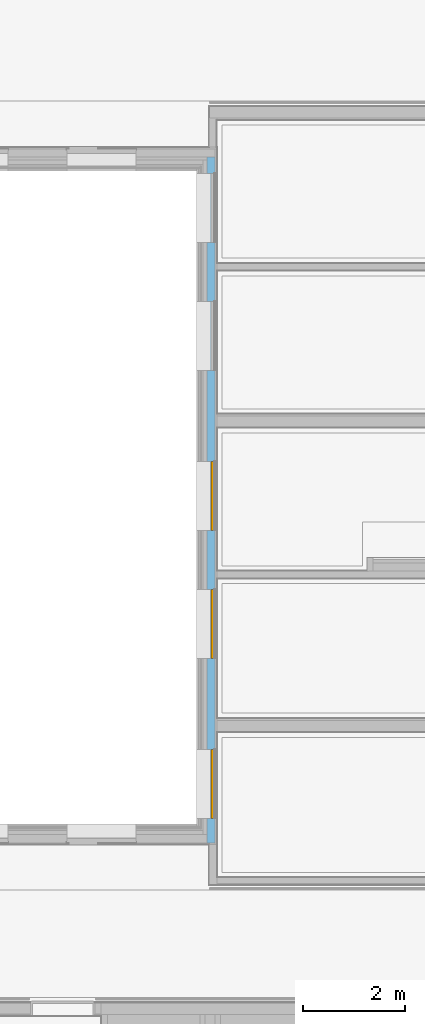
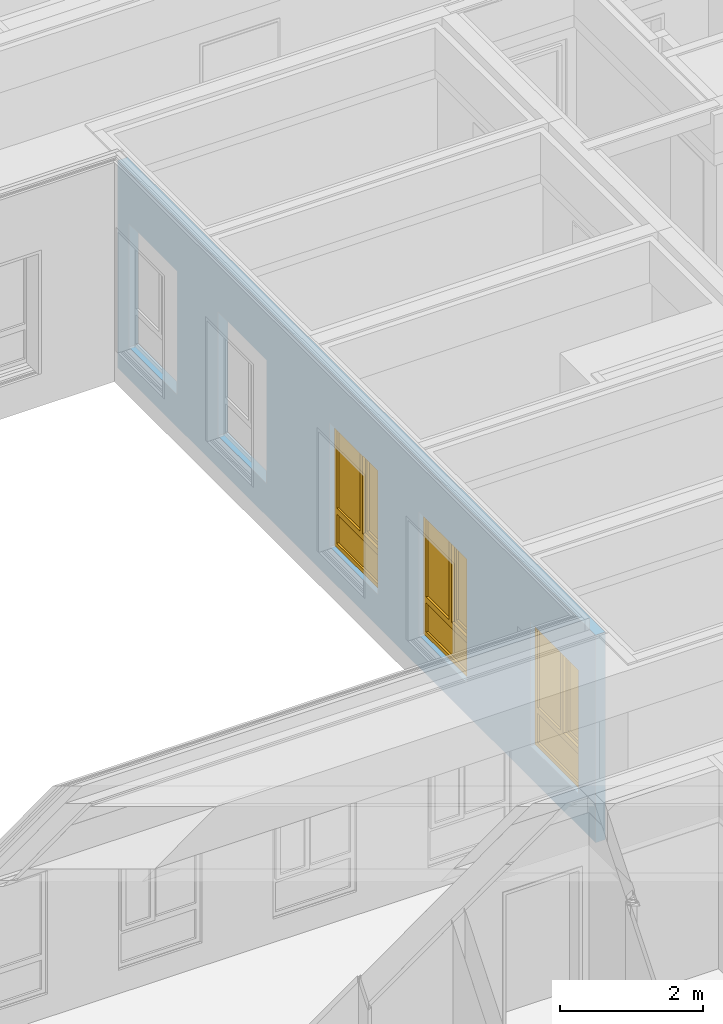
# One storey, part 126 of 222: 3 windows, 5 openings, plus 1 element that does not belong to this part.
"""IFC4 building model written with IfcOpenShell, lengths in metres."""

from ifc_helpers import new_model, entity, si_unit, converted_unit, derived_unit, frame, frame_2d, origin, origin_with_axes, place, context, subcontext, project, spatial, polyline, rectangle, outline, extrude, closed_shell, open_shell, surface_model, source, transform, mapped, material, element, fill, save


model = new_model("IFC4")

# Units and contexts
model_context = context("Model", 3, precision=1e-05, world=origin())
body_context = subcontext(model_context, "Body", "Model", "MODEL_VIEW")
ifc_project = project(units=[si_unit("LENGTHUNIT", "METRE"), si_unit("AREAUNIT", "SQUARE_METRE"), si_unit("VOLUMEUNIT", "CUBIC_METRE"), si_unit("MASSUNIT", "GRAM", prefix="KILO"), converted_unit("PLANEANGLEUNIT", "DEGREE", entity("IfcPlaneAngleMeasure", 0.0174532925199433), si_unit("PLANEANGLEUNIT", "RADIAN"), dimensions=[0, 0, 0, 0, 0, 0, 0]), derived_unit("THERMALTRANSMITTANCEUNIT", [(si_unit("POWERUNIT", "WATT"), 1), (si_unit("THERMODYNAMICTEMPERATUREUNIT", "KELVIN"), -1), (si_unit("LENGTHUNIT", "METRE"), -2)]), derived_unit("VOLUMETRICFLOWRATEUNIT", [(si_unit("LENGTHUNIT", "METRE"), 3), (converted_unit("TIMEUNIT", "hour", entity("IfcTimeMeasure", 3600.0), si_unit("TIMEUNIT", "SECOND"), dimensions=[0, 0, 1, 0, 0, 0, 0]), -1), (si_unit("LENGTHUNIT", "METRE"), -1)])], contexts=[model_context])

# Site, building, storey
site_placement = place(None, origin())
site = spatial("IfcSite", under=ifc_project, at=site_placement, Name="Psychiatrie Neubau Wunstorf", CompositionType="ELEMENT")
building_placement = place(site_placement, origin())
building = spatial("IfcBuilding", under=site, at=building_placement, Name="Neubau H2 Stationsgebäude", CompositionType="ELEMENT")
storey_placement = place(building_placement, frame((0.0, 0.0, 3.6)))
storey = spatial("IfcBuildingStorey", under=building, at=storey_placement, Name="H2 Ebene +1", CompositionType="ELEMENT", Elevation=3.6)

# Wall, openings, windows
ifc_material = material(Name="WA-DL")
wall_placement = place(storey_placement, frame((90.325, 8.45000000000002, 0.0), z_axis=(0.0, 0.0, 1.0), x_axis=(0.0, 1.0, 0.0)))
wall = element("IfcWall", 1, at=wall_placement, inside=storey, material=ifc_material, context=body_context, shape_type="SweptSolid", body=[
    extrude(rectangle(XDim=13.390001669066, YDim=0.16, at=frame_2d((6.69500083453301, 0.08), x_axis=(1.0, 0.0))), origin_with_axes(), (0.0, 0.0, 1.0), 3.55),
])
opening_1_placement = place(wall_placement, frame((1.82573687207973, 0.16, 0.55), z_axis=(0.0, -1.0, 0.0), x_axis=(0.0, 0.0, 1.0)))
opening_1 = element("IfcOpeningElement", 2, at=opening_1_placement, cuts=wall, Name="Fensteröffnung", ObjectType="Opening", context=body_context, shape_type="SweptSolid", body=[
    extrude(outline(polyline([(2.115, 1.35), (2.115, 0.0), (0.0, 0.0), (0.0, 1.35), (2.115, 1.35)])), origin_with_axes(), (0.0, 0.0, 1.0), 0.16),
])
opening_2_placement = place(wall_placement, frame((4.95001199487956, 0.159999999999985, 0.55), z_axis=(0.0, -1.0, 0.0), x_axis=(0.0, 0.0, 1.0)))
opening_2 = element("IfcOpeningElement", 3, at=opening_2_placement, cuts=wall, Name="Fensteröffnung", ObjectType="Opening", context=body_context, shape_type="SweptSolid", body=[
    extrude(outline(polyline([(2.115, 1.35), (2.115, 0.0), (0.0, 0.0), (0.0, 1.35), (2.115, 1.35)])), origin_with_axes(), (0.0, 0.0, 1.0), 0.16),
])
opening_3_placement = place(wall_placement, frame((7.45001199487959, 0.16, 0.55), z_axis=(0.0, -1.0, 0.0), x_axis=(0.0, 0.0, 1.0)))
opening_3 = element("IfcOpeningElement", 4, at=opening_3_placement, cuts=wall, Name="Fensteröffnung", ObjectType="Opening", context=body_context, shape_type="SweptSolid", body=[
    extrude(outline(polyline([(2.115, 1.35), (2.115, 0.0), (0.0, 0.0), (0.0, 1.35), (2.115, 1.35)])), origin_with_axes(), (0.0, 0.0, 1.0), 0.16),
])
opening_4_placement = place(wall_placement, frame((10.5746294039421, 0.160000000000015, 0.55), z_axis=(0.0, -1.0, 0.0), x_axis=(0.0, 0.0, 1.0)))
element("IfcOpeningElement", 5, at=opening_4_placement, cuts=wall, Name="Fensteröffnung", ObjectType="Opening", context=body_context, shape_type="SweptSolid", body=[
    extrude(outline(polyline([(2.115, 1.35), (2.115, 0.0), (0.0, 0.0), (0.0, 1.35), (2.115, 1.35)])), origin_with_axes(), (0.0, 0.0, 1.0), 0.16),
])
opening_5_placement = place(wall_placement, frame((13.0745718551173, 0.159999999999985, 0.55), z_axis=(0.0, -1.0, 0.0), x_axis=(0.0, 0.0, 1.0)))
element("IfcOpeningElement", 6, at=opening_5_placement, cuts=wall, Name="Fensteröffnung", ObjectType="Opening", context=body_context, shape_type="SweptSolid", body=[
    extrude(outline(polyline([(2.115, 1.35), (2.115, 0.0), (0.0, 0.0), (0.0, 1.35), (2.115, 1.35)])), origin_with_axes(), (0.0, 0.0, 1.0), 0.16),
])
shared_shape_1 = source(origin_with_axes(), body_context, "Body", "SurfaceModel", [
    surface_model("IfcShellBasedSurfaceModel", [(0.0, 0.0, 2.115), (0.0699999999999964, 0.0, 2.115), (0.0699999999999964, 0.0, 0.0), (0.0, 0.0, 0.0), (0.0, 0.0700000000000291, 0.0), (0.0699999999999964, 0.0700000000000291, 0.0), (0.0699999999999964, 0.0700000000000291, 2.115), (0.0, 0.0700000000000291, 2.115)], [closed_shell([[[0, 1, 2, 3]], [[4, 5, 6, 7]], [[3, 4, 7, 0]], [[2, 5, 4, 3]], [[1, 6, 5, 2]], [[0, 7, 6, 1]]], orient=[[False], [False], [False], [False], [False], [False]])]),
    surface_model("IfcShellBasedSurfaceModel", [(1.28, 0.0, 2.115), (1.35, 0.0, 2.115), (1.35, 0.0, 0.0), (1.28, 0.0, 0.0), (1.28, 0.0700000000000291, 0.0), (1.35, 0.0700000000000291, 0.0), (1.35, 0.0700000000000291, 2.115), (1.28, 0.0700000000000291, 2.115)], [closed_shell([[[0, 1, 2, 3]], [[4, 5, 6, 7]], [[3, 4, 7, 0]], [[2, 5, 4, 3]], [[1, 6, 5, 2]], [[0, 7, 6, 1]]], orient=[[False], [False], [False], [False], [False], [False]])]),
    surface_model("IfcShellBasedSurfaceModel", [(0.0699999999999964, 0.0, 0.07), (1.28, 0.0, 0.07), (1.28, 0.0, 0.0), (0.0699999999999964, 0.0, 0.0), (0.0699999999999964, 0.0700000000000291, 0.0), (1.28, 0.0700000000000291, 0.0), (1.28, 0.0700000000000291, 0.07), (0.0699999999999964, 0.0700000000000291, 0.07)], [closed_shell([[[0, 1, 2, 3]], [[4, 5, 6, 7]], [[3, 4, 7, 0]], [[2, 5, 4, 3]], [[1, 6, 5, 2]], [[0, 7, 6, 1]]], orient=[[False], [False], [False], [False], [False], [False]])]),
    surface_model("IfcShellBasedSurfaceModel", [(0.0699999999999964, 0.0, 2.115), (1.28, 0.0, 2.115), (1.28, 0.0, 2.045), (0.0699999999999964, 0.0, 2.045), (0.0699999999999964, 0.0700000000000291, 2.045), (1.28, 0.0700000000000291, 2.045), (1.28, 0.0700000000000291, 2.115), (0.0699999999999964, 0.0700000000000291, 2.115)], [closed_shell([[[0, 1, 2, 3]], [[4, 5, 6, 7]], [[3, 4, 7, 0]], [[2, 5, 4, 3]], [[1, 6, 5, 2]], [[0, 7, 6, 1]]], orient=[[False], [False], [False], [False], [False], [False]])]),
    surface_model("IfcShellBasedSurfaceModel", [(0.0699999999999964, 0.0, 0.67), (1.28, 0.0, 0.67), (1.28, 0.0, 0.57), (0.0699999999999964, 0.0, 0.57), (0.0699999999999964, 0.0700000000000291, 0.57), (1.28, 0.0700000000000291, 0.57), (1.28, 0.0700000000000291, 0.67), (0.0699999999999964, 0.0700000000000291, 0.67)], [closed_shell([[[0, 1, 2, 3]], [[4, 5, 6, 7]], [[3, 4, 7, 0]], [[2, 5, 4, 3]], [[1, 6, 5, 2]], [[0, 7, 6, 1]]], orient=[[False], [False], [False], [False], [False], [False]])]),
    surface_model("IfcShellBasedSurfaceModel", [(0.0699999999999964, 0.0350000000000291, 0.07), (0.0699999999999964, 0.0350000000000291, 0.57), (1.28, 0.0350000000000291, 0.57), (1.28, 0.0350000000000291, 0.07)], [open_shell([[[0, 1, 2, 3]]], orient=[[False]])]),
    surface_model("IfcShellBasedSurfaceModel", [(0.565699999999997, 0.0, 2.045), (0.635699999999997, 0.0, 2.045), (0.635699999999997, 0.0, 0.67), (0.565699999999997, 0.0, 0.67), (0.565699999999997, 0.0700000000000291, 0.67), (0.635699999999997, 0.0700000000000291, 0.67), (0.635699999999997, 0.0700000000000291, 2.045), (0.565699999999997, 0.0700000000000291, 2.045)], [closed_shell([[[0, 1, 2, 3]], [[4, 5, 6, 7]], [[3, 4, 7, 0]], [[2, 5, 4, 3]], [[1, 6, 5, 2]], [[0, 7, 6, 1]]], orient=[[False], [False], [False], [False], [False], [False]])]),
    surface_model("IfcShellBasedSurfaceModel", [(0.0499999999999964, -0.0499999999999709, 2.065), (0.119999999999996, -0.0499999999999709, 2.065), (0.119999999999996, -0.0499999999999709, 0.65), (0.0499999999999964, -0.0499999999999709, 0.65), (0.0499999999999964, 0.0200000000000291, 0.65), (0.119999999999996, 0.0200000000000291, 0.65), (0.119999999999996, 0.0200000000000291, 2.065), (0.0499999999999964, 0.0200000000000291, 2.065)], [closed_shell([[[0, 1, 2, 3]], [[4, 5, 6, 7]], [[3, 4, 7, 0]], [[2, 5, 4, 3]], [[1, 6, 5, 2]], [[0, 7, 6, 1]]], orient=[[False], [False], [False], [False], [False], [False]])]),
    surface_model("IfcShellBasedSurfaceModel", [(0.515699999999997, -0.0499999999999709, 2.065), (0.585699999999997, -0.0499999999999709, 2.065), (0.585699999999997, -0.0499999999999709, 0.65), (0.515699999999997, -0.0499999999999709, 0.65), (0.515699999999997, 0.0200000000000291, 0.65), (0.585699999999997, 0.0200000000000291, 0.65), (0.585699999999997, 0.0200000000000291, 2.065), (0.515699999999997, 0.0200000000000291, 2.065)], [closed_shell([[[0, 1, 2, 3]], [[4, 5, 6, 7]], [[3, 4, 7, 0]], [[2, 5, 4, 3]], [[1, 6, 5, 2]], [[0, 7, 6, 1]]], orient=[[False], [False], [False], [False], [False], [False]])]),
    surface_model("IfcShellBasedSurfaceModel", [(0.119999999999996, -0.0499999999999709, 0.72), (0.515699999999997, -0.0499999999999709, 0.72), (0.515699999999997, -0.0499999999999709, 0.65), (0.119999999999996, -0.0499999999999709, 0.65), (0.119999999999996, 0.0200000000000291, 0.65), (0.515699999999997, 0.0200000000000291, 0.65), (0.515699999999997, 0.0200000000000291, 0.72), (0.119999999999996, 0.0200000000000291, 0.72)], [closed_shell([[[0, 1, 2, 3]], [[4, 5, 6, 7]], [[3, 4, 7, 0]], [[2, 5, 4, 3]], [[1, 6, 5, 2]], [[0, 7, 6, 1]]], orient=[[False], [False], [False], [False], [False], [False]])]),
    surface_model("IfcShellBasedSurfaceModel", [(0.119999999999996, -0.0499999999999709, 2.065), (0.515699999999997, -0.0499999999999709, 2.065), (0.515699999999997, -0.0499999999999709, 1.995), (0.119999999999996, -0.0499999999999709, 1.995), (0.119999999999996, 0.0200000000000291, 1.995), (0.515699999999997, 0.0200000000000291, 1.995), (0.515699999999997, 0.0200000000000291, 2.065), (0.119999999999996, 0.0200000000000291, 2.065)], [closed_shell([[[0, 1, 2, 3]], [[4, 5, 6, 7]], [[3, 4, 7, 0]], [[2, 5, 4, 3]], [[1, 6, 5, 2]], [[0, 7, 6, 1]]], orient=[[False], [False], [False], [False], [False], [False]])]),
    surface_model("IfcShellBasedSurfaceModel", [(0.635699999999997, 0.0350000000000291, 0.67), (0.635699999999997, 0.0350000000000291, 2.045), (1.28, 0.0350000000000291, 2.045), (1.28, 0.0350000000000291, 0.67)], [open_shell([[[0, 1, 2, 3]]], orient=[[False]])]),
    surface_model("IfcShellBasedSurfaceModel", [(0.119999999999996, -0.0149999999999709, 0.72), (0.119999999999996, -0.0149999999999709, 1.995), (0.515699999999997, -0.0149999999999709, 1.995), (0.515699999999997, -0.0149999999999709, 0.72)], [open_shell([[[0, 1, 2, 3]]], orient=[[False]])]),
])
window_1_placement = place(opening_1_placement, frame((0.0, 1.35, 0.146), z_axis=(1.0, 0.0, 0.0), x_axis=(0.0, -1.0, 0.0)))
window_1 = element("IfcWindow", 7, at=window_1_placement, inside=storey, Name="Fenster", OverallHeight=2.115, OverallWidth=1.35, PartitioningType="USERDEFINED", PredefinedType="WINDOW", context=body_context, shape_type="MappedRepresentation", body=[
    mapped(shared_shape_1, transform((0.0, 0.0, 0.0), x_axis=(1.0, 0.0, 0.0), y_axis=(0.0, 1.0, 0.0), z_axis=(0.0, 0.0, 1.0), scale=1.0)),
])
fill(opening_1, window_1)
shared_shape_2 = source(origin_with_axes(), body_context, "Body", "SurfaceModel", [
    surface_model("IfcShellBasedSurfaceModel", [(0.0, 0.0, 2.115), (0.0699999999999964, 0.0, 2.115), (0.0699999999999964, 0.0, 0.0), (0.0, 0.0, 0.0), (0.0, 0.0700000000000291, 0.0), (0.0699999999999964, 0.0700000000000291, 0.0), (0.0699999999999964, 0.0700000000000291, 2.115), (0.0, 0.0700000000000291, 2.115)], [closed_shell([[[0, 1, 2, 3]], [[4, 5, 6, 7]], [[3, 4, 7, 0]], [[2, 5, 4, 3]], [[1, 6, 5, 2]], [[0, 7, 6, 1]]], orient=[[False], [False], [False], [False], [False], [False]])]),
    surface_model("IfcShellBasedSurfaceModel", [(1.28, 0.0, 2.115), (1.35, 0.0, 2.115), (1.35, 0.0, 0.0), (1.28, 0.0, 0.0), (1.28, 0.0700000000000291, 0.0), (1.35, 0.0700000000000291, 0.0), (1.35, 0.0700000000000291, 2.115), (1.28, 0.0700000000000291, 2.115)], [closed_shell([[[0, 1, 2, 3]], [[4, 5, 6, 7]], [[3, 4, 7, 0]], [[2, 5, 4, 3]], [[1, 6, 5, 2]], [[0, 7, 6, 1]]], orient=[[False], [False], [False], [False], [False], [False]])]),
    surface_model("IfcShellBasedSurfaceModel", [(0.0699999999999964, 0.0, 0.07), (1.28, 0.0, 0.07), (1.28, 0.0, 0.0), (0.0699999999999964, 0.0, 0.0), (0.0699999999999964, 0.0700000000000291, 0.0), (1.28, 0.0700000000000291, 0.0), (1.28, 0.0700000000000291, 0.07), (0.0699999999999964, 0.0700000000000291, 0.07)], [closed_shell([[[0, 1, 2, 3]], [[4, 5, 6, 7]], [[3, 4, 7, 0]], [[2, 5, 4, 3]], [[1, 6, 5, 2]], [[0, 7, 6, 1]]], orient=[[False], [False], [False], [False], [False], [False]])]),
    surface_model("IfcShellBasedSurfaceModel", [(0.0699999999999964, 0.0, 2.115), (1.28, 0.0, 2.115), (1.28, 0.0, 2.045), (0.0699999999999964, 0.0, 2.045), (0.0699999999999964, 0.0700000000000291, 2.045), (1.28, 0.0700000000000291, 2.045), (1.28, 0.0700000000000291, 2.115), (0.0699999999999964, 0.0700000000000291, 2.115)], [closed_shell([[[0, 1, 2, 3]], [[4, 5, 6, 7]], [[3, 4, 7, 0]], [[2, 5, 4, 3]], [[1, 6, 5, 2]], [[0, 7, 6, 1]]], orient=[[False], [False], [False], [False], [False], [False]])]),
    surface_model("IfcShellBasedSurfaceModel", [(0.0699999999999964, 0.0, 0.67), (1.28, 0.0, 0.67), (1.28, 0.0, 0.57), (0.0699999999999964, 0.0, 0.57), (0.0699999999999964, 0.0700000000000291, 0.57), (1.28, 0.0700000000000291, 0.57), (1.28, 0.0700000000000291, 0.67), (0.0699999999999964, 0.0700000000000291, 0.67)], [closed_shell([[[0, 1, 2, 3]], [[4, 5, 6, 7]], [[3, 4, 7, 0]], [[2, 5, 4, 3]], [[1, 6, 5, 2]], [[0, 7, 6, 1]]], orient=[[False], [False], [False], [False], [False], [False]])]),
    surface_model("IfcShellBasedSurfaceModel", [(0.0699999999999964, 0.0350000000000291, 0.07), (0.0699999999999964, 0.0350000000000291, 0.57), (1.28, 0.0350000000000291, 0.57), (1.28, 0.0350000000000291, 0.07)], [open_shell([[[0, 1, 2, 3]]], orient=[[False]])]),
    surface_model("IfcShellBasedSurfaceModel", [(0.565699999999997, 0.0, 2.045), (0.635699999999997, 0.0, 2.045), (0.635699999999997, 0.0, 0.67), (0.565699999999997, 0.0, 0.67), (0.565699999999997, 0.0700000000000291, 0.67), (0.635699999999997, 0.0700000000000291, 0.67), (0.635699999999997, 0.0700000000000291, 2.045), (0.565699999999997, 0.0700000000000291, 2.045)], [closed_shell([[[0, 1, 2, 3]], [[4, 5, 6, 7]], [[3, 4, 7, 0]], [[2, 5, 4, 3]], [[1, 6, 5, 2]], [[0, 7, 6, 1]]], orient=[[False], [False], [False], [False], [False], [False]])]),
    surface_model("IfcShellBasedSurfaceModel", [(0.0499999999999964, -0.0499999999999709, 2.065), (0.119999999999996, -0.0499999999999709, 2.065), (0.119999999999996, -0.0499999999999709, 0.65), (0.0499999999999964, -0.0499999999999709, 0.65), (0.0499999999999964, 0.0200000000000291, 0.65), (0.119999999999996, 0.0200000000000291, 0.65), (0.119999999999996, 0.0200000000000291, 2.065), (0.0499999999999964, 0.0200000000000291, 2.065)], [closed_shell([[[0, 1, 2, 3]], [[4, 5, 6, 7]], [[3, 4, 7, 0]], [[2, 5, 4, 3]], [[1, 6, 5, 2]], [[0, 7, 6, 1]]], orient=[[False], [False], [False], [False], [False], [False]])]),
    surface_model("IfcShellBasedSurfaceModel", [(0.515699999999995, -0.0499999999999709, 2.065), (0.585699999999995, -0.0499999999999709, 2.065), (0.585699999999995, -0.0499999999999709, 0.65), (0.515699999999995, -0.0499999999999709, 0.65), (0.515699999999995, 0.0200000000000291, 0.65), (0.585699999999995, 0.0200000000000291, 0.65), (0.585699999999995, 0.0200000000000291, 2.065), (0.515699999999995, 0.0200000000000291, 2.065)], [closed_shell([[[0, 1, 2, 3]], [[4, 5, 6, 7]], [[3, 4, 7, 0]], [[2, 5, 4, 3]], [[1, 6, 5, 2]], [[0, 7, 6, 1]]], orient=[[False], [False], [False], [False], [False], [False]])]),
    surface_model("IfcShellBasedSurfaceModel", [(0.119999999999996, -0.0499999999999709, 0.72), (0.515699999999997, -0.0499999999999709, 0.72), (0.515699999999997, -0.0499999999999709, 0.65), (0.119999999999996, -0.0499999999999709, 0.65), (0.119999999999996, 0.0200000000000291, 0.65), (0.515699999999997, 0.0200000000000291, 0.65), (0.515699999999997, 0.0200000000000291, 0.72), (0.119999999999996, 0.0200000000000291, 0.72)], [closed_shell([[[0, 1, 2, 3]], [[4, 5, 6, 7]], [[3, 4, 7, 0]], [[2, 5, 4, 3]], [[1, 6, 5, 2]], [[0, 7, 6, 1]]], orient=[[False], [False], [False], [False], [False], [False]])]),
    surface_model("IfcShellBasedSurfaceModel", [(0.119999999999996, -0.0499999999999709, 2.065), (0.515699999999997, -0.0499999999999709, 2.065), (0.515699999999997, -0.0499999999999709, 1.995), (0.119999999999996, -0.0499999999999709, 1.995), (0.119999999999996, 0.0200000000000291, 1.995), (0.515699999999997, 0.0200000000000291, 1.995), (0.515699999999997, 0.0200000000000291, 2.065), (0.119999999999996, 0.0200000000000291, 2.065)], [closed_shell([[[0, 1, 2, 3]], [[4, 5, 6, 7]], [[3, 4, 7, 0]], [[2, 5, 4, 3]], [[1, 6, 5, 2]], [[0, 7, 6, 1]]], orient=[[False], [False], [False], [False], [False], [False]])]),
    surface_model("IfcShellBasedSurfaceModel", [(0.635699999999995, 0.0350000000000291, 0.67), (0.635699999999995, 0.0350000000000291, 2.045), (1.28, 0.0350000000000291, 2.045), (1.28, 0.0350000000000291, 0.67)], [open_shell([[[0, 1, 2, 3]]], orient=[[False]])]),
    surface_model("IfcShellBasedSurfaceModel", [(0.119999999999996, -0.0149999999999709, 0.72), (0.119999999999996, -0.0149999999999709, 1.995), (0.515699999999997, -0.0149999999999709, 1.995), (0.515699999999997, -0.0149999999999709, 0.72)], [open_shell([[[0, 1, 2, 3]]], orient=[[False]])]),
])
window_2_placement = place(opening_2_placement, frame((0.0, 1.35, 0.146), z_axis=(1.0, 0.0, 0.0), x_axis=(0.0, -1.0, 0.0)))
window_2 = element("IfcWindow", 8, at=window_2_placement, inside=storey, Name="Fenster", OverallHeight=2.115, OverallWidth=1.35, PartitioningType="USERDEFINED", PredefinedType="WINDOW", context=body_context, shape_type="MappedRepresentation", body=[
    mapped(shared_shape_2, transform((0.0, 0.0, 0.0), x_axis=(1.0, 0.0, 0.0), y_axis=(0.0, 1.0, 0.0), z_axis=(0.0, 0.0, 1.0), scale=1.0)),
])
fill(opening_2, window_2)
shared_shape_3 = source(origin_with_axes(), body_context, "Body", "SurfaceModel", [
    surface_model("IfcShellBasedSurfaceModel", [(0.0, 0.0, 2.115), (0.0699999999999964, 0.0, 2.115), (0.0699999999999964, 0.0, 0.0), (0.0, 0.0, 0.0), (0.0, 0.0700000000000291, 0.0), (0.0699999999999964, 0.0700000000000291, 0.0), (0.0699999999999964, 0.0700000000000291, 2.115), (0.0, 0.0700000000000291, 2.115)], [closed_shell([[[0, 1, 2, 3]], [[4, 5, 6, 7]], [[3, 4, 7, 0]], [[2, 5, 4, 3]], [[1, 6, 5, 2]], [[0, 7, 6, 1]]], orient=[[False], [False], [False], [False], [False], [False]])]),
    surface_model("IfcShellBasedSurfaceModel", [(1.28, 0.0, 2.115), (1.35, 0.0, 2.115), (1.35, 0.0, 0.0), (1.28, 0.0, 0.0), (1.28, 0.0700000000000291, 0.0), (1.35, 0.0700000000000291, 0.0), (1.35, 0.0700000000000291, 2.115), (1.28, 0.0700000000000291, 2.115)], [closed_shell([[[0, 1, 2, 3]], [[4, 5, 6, 7]], [[3, 4, 7, 0]], [[2, 5, 4, 3]], [[1, 6, 5, 2]], [[0, 7, 6, 1]]], orient=[[False], [False], [False], [False], [False], [False]])]),
    surface_model("IfcShellBasedSurfaceModel", [(0.0699999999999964, 0.0, 0.07), (1.28, 0.0, 0.07), (1.28, 0.0, 0.0), (0.0699999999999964, 0.0, 0.0), (0.0699999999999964, 0.0700000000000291, 0.0), (1.28, 0.0700000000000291, 0.0), (1.28, 0.0700000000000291, 0.07), (0.0699999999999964, 0.0700000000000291, 0.07)], [closed_shell([[[0, 1, 2, 3]], [[4, 5, 6, 7]], [[3, 4, 7, 0]], [[2, 5, 4, 3]], [[1, 6, 5, 2]], [[0, 7, 6, 1]]], orient=[[False], [False], [False], [False], [False], [False]])]),
    surface_model("IfcShellBasedSurfaceModel", [(0.0699999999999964, 0.0, 2.115), (1.28, 0.0, 2.115), (1.28, 0.0, 2.045), (0.0699999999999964, 0.0, 2.045), (0.0699999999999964, 0.0700000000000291, 2.045), (1.28, 0.0700000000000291, 2.045), (1.28, 0.0700000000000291, 2.115), (0.0699999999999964, 0.0700000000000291, 2.115)], [closed_shell([[[0, 1, 2, 3]], [[4, 5, 6, 7]], [[3, 4, 7, 0]], [[2, 5, 4, 3]], [[1, 6, 5, 2]], [[0, 7, 6, 1]]], orient=[[False], [False], [False], [False], [False], [False]])]),
    surface_model("IfcShellBasedSurfaceModel", [(0.0699999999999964, 0.0, 0.67), (1.28, 0.0, 0.67), (1.28, 0.0, 0.57), (0.0699999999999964, 0.0, 0.57), (0.0699999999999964, 0.0700000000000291, 0.57), (1.28, 0.0700000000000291, 0.57), (1.28, 0.0700000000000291, 0.67), (0.0699999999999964, 0.0700000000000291, 0.67)], [closed_shell([[[0, 1, 2, 3]], [[4, 5, 6, 7]], [[3, 4, 7, 0]], [[2, 5, 4, 3]], [[1, 6, 5, 2]], [[0, 7, 6, 1]]], orient=[[False], [False], [False], [False], [False], [False]])]),
    surface_model("IfcShellBasedSurfaceModel", [(0.0699999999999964, 0.0350000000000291, 0.07), (0.0699999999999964, 0.0350000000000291, 0.57), (1.28, 0.0350000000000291, 0.57), (1.28, 0.0350000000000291, 0.07)], [open_shell([[[0, 1, 2, 3]]], orient=[[False]])]),
    surface_model("IfcShellBasedSurfaceModel", [(0.565699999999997, 0.0, 2.045), (0.635699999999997, 0.0, 2.045), (0.635699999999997, 0.0, 0.67), (0.565699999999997, 0.0, 0.67), (0.565699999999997, 0.0700000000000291, 0.67), (0.635699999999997, 0.0700000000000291, 0.67), (0.635699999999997, 0.0700000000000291, 2.045), (0.565699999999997, 0.0700000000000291, 2.045)], [closed_shell([[[0, 1, 2, 3]], [[4, 5, 6, 7]], [[3, 4, 7, 0]], [[2, 5, 4, 3]], [[1, 6, 5, 2]], [[0, 7, 6, 1]]], orient=[[False], [False], [False], [False], [False], [False]])]),
    surface_model("IfcShellBasedSurfaceModel", [(0.0499999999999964, -0.0499999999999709, 2.065), (0.119999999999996, -0.0499999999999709, 2.065), (0.119999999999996, -0.0499999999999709, 0.65), (0.0499999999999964, -0.0499999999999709, 0.65), (0.0499999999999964, 0.0200000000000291, 0.65), (0.119999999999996, 0.0200000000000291, 0.65), (0.119999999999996, 0.0200000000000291, 2.065), (0.0499999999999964, 0.0200000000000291, 2.065)], [closed_shell([[[0, 1, 2, 3]], [[4, 5, 6, 7]], [[3, 4, 7, 0]], [[2, 5, 4, 3]], [[1, 6, 5, 2]], [[0, 7, 6, 1]]], orient=[[False], [False], [False], [False], [False], [False]])]),
    surface_model("IfcShellBasedSurfaceModel", [(0.515699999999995, -0.0499999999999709, 2.065), (0.585699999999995, -0.0499999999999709, 2.065), (0.585699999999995, -0.0499999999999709, 0.65), (0.515699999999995, -0.0499999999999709, 0.65), (0.515699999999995, 0.0200000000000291, 0.65), (0.585699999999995, 0.0200000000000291, 0.65), (0.585699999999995, 0.0200000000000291, 2.065), (0.515699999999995, 0.0200000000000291, 2.065)], [closed_shell([[[0, 1, 2, 3]], [[4, 5, 6, 7]], [[3, 4, 7, 0]], [[2, 5, 4, 3]], [[1, 6, 5, 2]], [[0, 7, 6, 1]]], orient=[[False], [False], [False], [False], [False], [False]])]),
    surface_model("IfcShellBasedSurfaceModel", [(0.119999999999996, -0.0499999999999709, 0.72), (0.515699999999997, -0.0499999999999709, 0.72), (0.515699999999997, -0.0499999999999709, 0.65), (0.119999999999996, -0.0499999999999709, 0.65), (0.119999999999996, 0.0200000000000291, 0.65), (0.515699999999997, 0.0200000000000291, 0.65), (0.515699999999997, 0.0200000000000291, 0.72), (0.119999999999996, 0.0200000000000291, 0.72)], [closed_shell([[[0, 1, 2, 3]], [[4, 5, 6, 7]], [[3, 4, 7, 0]], [[2, 5, 4, 3]], [[1, 6, 5, 2]], [[0, 7, 6, 1]]], orient=[[False], [False], [False], [False], [False], [False]])]),
    surface_model("IfcShellBasedSurfaceModel", [(0.119999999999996, -0.0499999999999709, 2.065), (0.515699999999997, -0.0499999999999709, 2.065), (0.515699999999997, -0.0499999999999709, 1.995), (0.119999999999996, -0.0499999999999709, 1.995), (0.119999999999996, 0.0200000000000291, 1.995), (0.515699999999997, 0.0200000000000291, 1.995), (0.515699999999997, 0.0200000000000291, 2.065), (0.119999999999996, 0.0200000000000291, 2.065)], [closed_shell([[[0, 1, 2, 3]], [[4, 5, 6, 7]], [[3, 4, 7, 0]], [[2, 5, 4, 3]], [[1, 6, 5, 2]], [[0, 7, 6, 1]]], orient=[[False], [False], [False], [False], [False], [False]])]),
    surface_model("IfcShellBasedSurfaceModel", [(0.635699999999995, 0.0350000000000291, 0.67), (0.635699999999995, 0.0350000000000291, 2.045), (1.28, 0.0350000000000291, 2.045), (1.28, 0.0350000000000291, 0.67)], [open_shell([[[0, 1, 2, 3]]], orient=[[False]])]),
    surface_model("IfcShellBasedSurfaceModel", [(0.119999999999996, -0.0149999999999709, 0.72), (0.119999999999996, -0.0149999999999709, 1.995), (0.515699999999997, -0.0149999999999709, 1.995), (0.515699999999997, -0.0149999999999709, 0.72)], [open_shell([[[0, 1, 2, 3]]], orient=[[False]])]),
])
window_3_placement = place(opening_3_placement, frame((0.0, 1.35, 0.146), z_axis=(1.0, 0.0, 0.0), x_axis=(0.0, -1.0, 0.0)))
window_3 = element("IfcWindow", 9, at=window_3_placement, inside=storey, Name="Fenster", OverallHeight=2.115, OverallWidth=1.35, PartitioningType="USERDEFINED", PredefinedType="WINDOW", context=body_context, shape_type="MappedRepresentation", body=[
    mapped(shared_shape_3, transform((0.0, 0.0, 0.0), x_axis=(1.0, 0.0, 0.0), y_axis=(0.0, 1.0, 0.0), z_axis=(0.0, 0.0, 1.0), scale=1.0)),
])
fill(opening_3, window_3)

save(model, "model.ifc")
